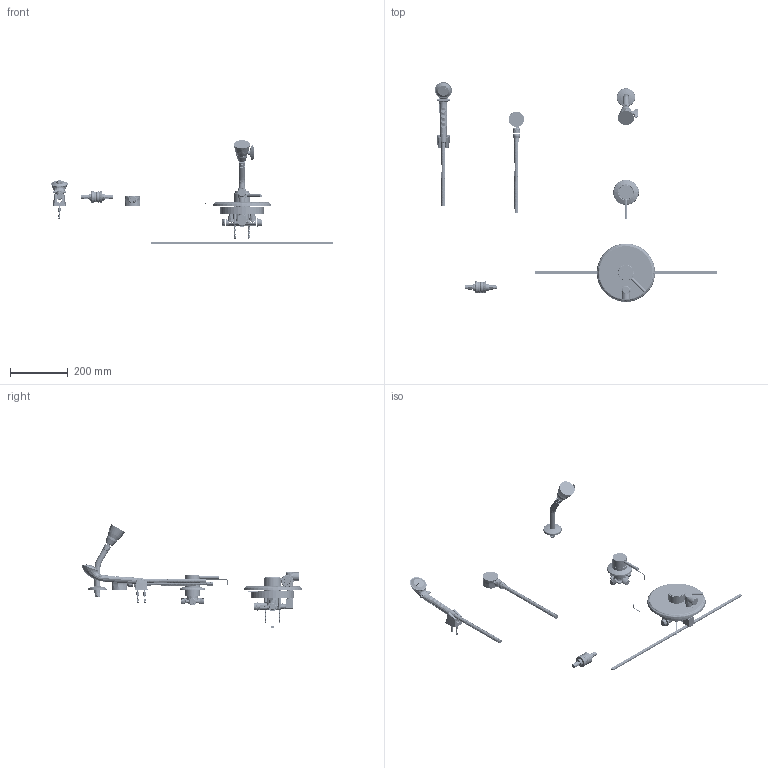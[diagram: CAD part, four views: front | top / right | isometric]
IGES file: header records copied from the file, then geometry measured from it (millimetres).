
Start section:  PTC IGES file: sh-pb4-36-020_REV030624.igs
Global section: file name: sh-pb4-36-020_REV030624.igs; native system: Creo Parametric by PTC Inc.; preprocessor: 2021184; author: rodjo; organization: Unknown; date: 20240306.152653; units: inch
Bounding box: 982.25 x 764.43 x 360.75 mm (x, y, z)
Surface area: 429799.1 mm2 (no closed solid volume)
Topology: 0 solids, 0 shells, 1988 faces, 18052 edges, 24955 vertices
Faces by surface type: revolution 1364, bspline 624
